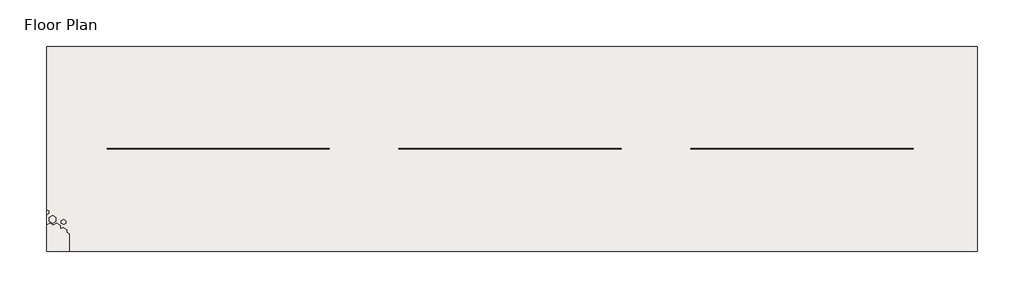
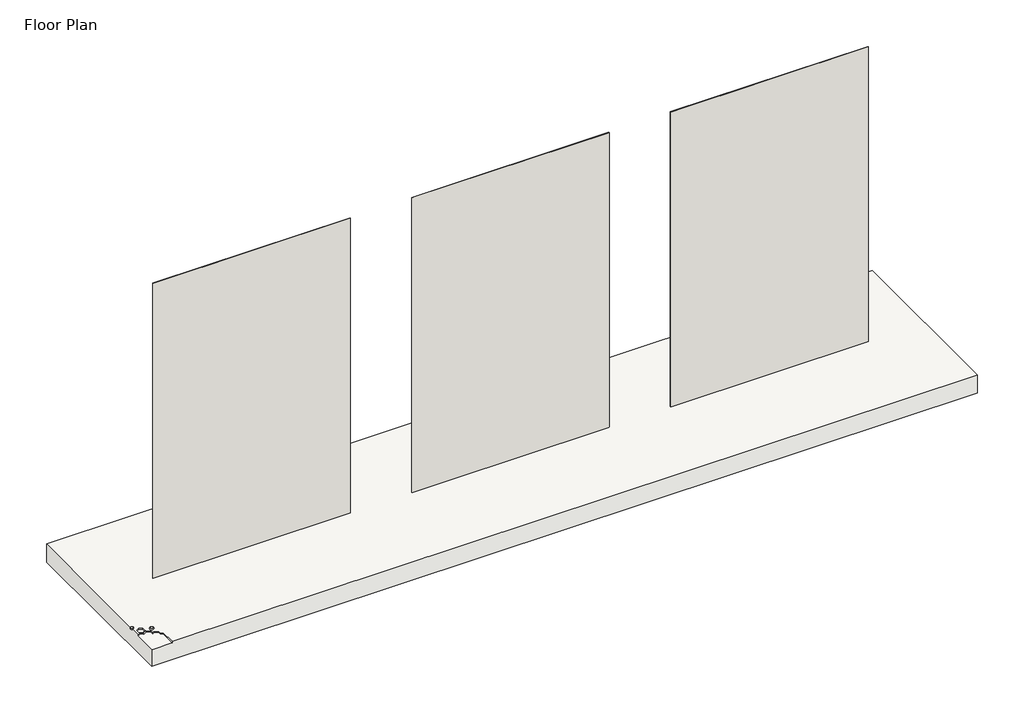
# One storey, incomplete: 3 walls, 1 slab.
"""IFC4 building model written with IfcOpenShell, lengths in millimetres."""

from ifc_helpers import new_model, si_unit, origin, origin_with_axes, place, context, project, spatial, polyline, outline, extrude, faceted_brep, element, save

model = new_model("IFC4")

# Units and contexts
model_context = context("Model", 3, world=origin())
ifc_project = project(units=[si_unit("LENGTHUNIT", "METRE", prefix="MILLI")], contexts=[model_context])

# Site, building, storey
site = spatial("IfcSite", under=ifc_project)
building = spatial("IfcBuilding", under=site)
storey = spatial("IfcBuildingStorey", under=building, Name="Floor Plan", Elevation=0.0)

# Slab
placement = place(None, origin())
element("IfcSlab", 1, ObjectType="Floor 1", at=placement, inside=storey, context=model_context, shape_type="Brep", body=[
    faceted_brep([(193729.564463, -1405.268292, -300.0), (180969.564463, -1405.268292, -300.0), (180969.564463, 1405.268292, -300.0), (193729.564463, 1405.268292, -300.0), (193729.564463, 1405.268292, 0.0), (180969.564463, 1405.268292, 0.0), (180969.564463, -838.8208533, 0.0), (180973.1211266, -836.7674126, 0.0), (181003.8301292, -854.4972635, 0.0), (181003.8301292, -887.6294851, 0.0), (180973.1211266, -905.3593361, 0.0), (180969.564463, -903.3058954, 0.0), (180969.564463, -1029.5470898, 0.0), (180979.1972272, -1035.1085689, 0.0), (181015.3908374, -1014.2121783, 0.0), (181062.4046401, -1041.3556099, 0.0), (181108.4091656, -1014.7948848, 0.0), (181167.6401701, -1048.9919211, 0.0), (181167.6401701, -1095.6301509, 0.0), (181196.9088101, -1078.7318937, 0.0), (181251.5578344, -1110.2835225, 0.0), (181251.5578344, -1149.3943664, 0.0), (181286.1988505, -1169.3943664, 0.0), (181286.1988505, -1405.268292, 0.0), (193729.564463, -1405.268292, 0.0), (181052.4226577, -913.8797767, 0.0), (181098.7748127, -940.6412058, 0.0), (181098.7748127, -995.8128392, 0.0), (181052.4226577, -1022.5742684, 0.0), (181006.0705027, -995.8128392, 0.0), (181006.0705027, -940.6412058, 0.0), (181202.5290945, -971.7658751, 0.0), (181233.3339718, -989.5510793, 0.0), (181233.3339718, -1022.1588741, 0.0), (181202.5290945, -1039.9440783, 0.0), (181171.7242172, -1022.1588741, 0.0), (181171.7242172, -989.5510793, 0.0), (181286.1988505, -1405.268292, -25.0), (180969.564463, -1405.268292, -25.0), (180969.564463, -1029.5470898, -25.0), (180969.564463, -903.3058954, -25.0), (180969.564463, -838.8208533, -25.0), (181286.1988505, -1169.3943664, -25.0), (181251.5578344, -1149.3943664, -25.0), (181251.5578344, -1110.2835225, -25.0), (181196.9088101, -1078.7318937, -25.0), (181167.6401701, -1095.6301509, -25.0), (181167.6401701, -1048.9919211, -25.0), (181108.4091656, -1014.7948848, -25.0), (181062.4046401, -1041.3556099, -25.0), (181015.3908374, -1014.2121783, -25.0), (180979.1972272, -1035.1085689, -25.0), (181098.7748127, -940.6412058, -25.0), (181052.4226577, -913.8797767, -25.0), (181006.0705027, -940.6412058, -25.0), (181006.0705027, -995.8128392, -25.0), (181052.4226577, -1022.5742684, -25.0), (181098.7748127, -995.8128392, -25.0), (181003.8301292, -854.4972635, -25.0), (180973.1211266, -836.7674126, -25.0), (180973.1211266, -905.3593361, -25.0), (181003.8301292, -887.6294851, -25.0), (181233.3339718, -989.5510793, -25.0), (181202.5290945, -971.7658751, -25.0), (181171.7242172, -989.5510793, -25.0), (181171.7242172, -1022.1588741, -25.0), (181202.5290945, -1039.9440783, -25.0), (181233.3339718, -1022.1588741, -25.0)], [[[0, 1, 2, 3]], [[4, 5, 6, 7, 8, 9, 10, 11, 12, 13, 14, 15, 16, 17, 18, 19, 20, 21, 22, 23, 24], [25, 26, 27, 28, 29, 30], [31, 32, 33, 34, 35, 36]], [[1, 0, 24, 23, 37, 38]], [[2, 1, 38, 39, 12, 11, 40, 41, 6, 5]], [[3, 2, 5, 4]], [[42, 43, 44, 45, 46, 47, 48, 49, 50, 51, 39, 38, 37]], [[52, 53, 54, 55, 56, 57]], [[58, 59, 41, 40, 60, 61]], [[62, 63, 64, 65, 66, 67]], [[42, 37, 23, 22]], [[43, 42, 22, 21]], [[44, 43, 21, 20]], [[45, 44, 20, 19]], [[46, 45, 19, 18]], [[47, 46, 18, 17]], [[48, 47, 17, 16]], [[49, 48, 16, 15]], [[50, 49, 15, 14]], [[51, 50, 14, 13]], [[39, 51, 13, 12]], [[53, 52, 26, 25]], [[54, 53, 25, 30]], [[55, 54, 30, 29]], [[56, 55, 29, 28]], [[57, 56, 28, 27]], [[52, 57, 27, 26]], [[59, 58, 8, 7]], [[41, 59, 7, 6]], [[60, 40, 11, 10]], [[61, 60, 10, 9]], [[58, 61, 9, 8]], [[63, 62, 32, 31]], [[64, 63, 31, 36]], [[65, 64, 36, 35]], [[66, 65, 35, 34]], [[67, 66, 34, 33]], [[62, 67, 33, 32]], [[0, 3, 4, 24]]]),
])

# Walls
element("IfcWall", 2, ObjectType="Cemintel Edge Cladding 9mm x 1200mm x 2450mm", at=placement, inside=storey, context=model_context, shape_type="SweptSolid", body=[
    extrude(outline(polyline([(184848.0, -4.5), (181800.0, -4.5), (181800.0, 4.5), (184848.0, 4.5), (184848.0, -4.5)])), origin_with_axes(), (0.0, 0.0, 1.0), 4820.0),
])
element("IfcWall", 3, ObjectType="Cemintel Edge Cladding 9mm x 1200mm x 2750mm", at=placement, inside=storey, context=model_context, shape_type="SweptSolid", body=[
    extrude(outline(polyline([(188848.0, -4.5), (185800.0, -4.5), (185800.0, 4.5), (188848.0, 4.5), (188848.0, -4.5)])), origin_with_axes(), (0.0, 0.0, 1.0), 4820.0),
])
element("IfcWall", 4, ObjectType="Cemintel Edge Cladding 9mm x 1200mm x 3000mm", at=placement, inside=storey, context=model_context, shape_type="SweptSolid", body=[
    extrude(outline(polyline([(192848.0, -4.5), (189800.0, -4.5), (189800.0, 4.5), (192848.0, 4.5), (192848.0, -4.5)])), origin_with_axes(), (0.0, 0.0, 1.0), 4820.0),
])

save(model, "model.ifc")
